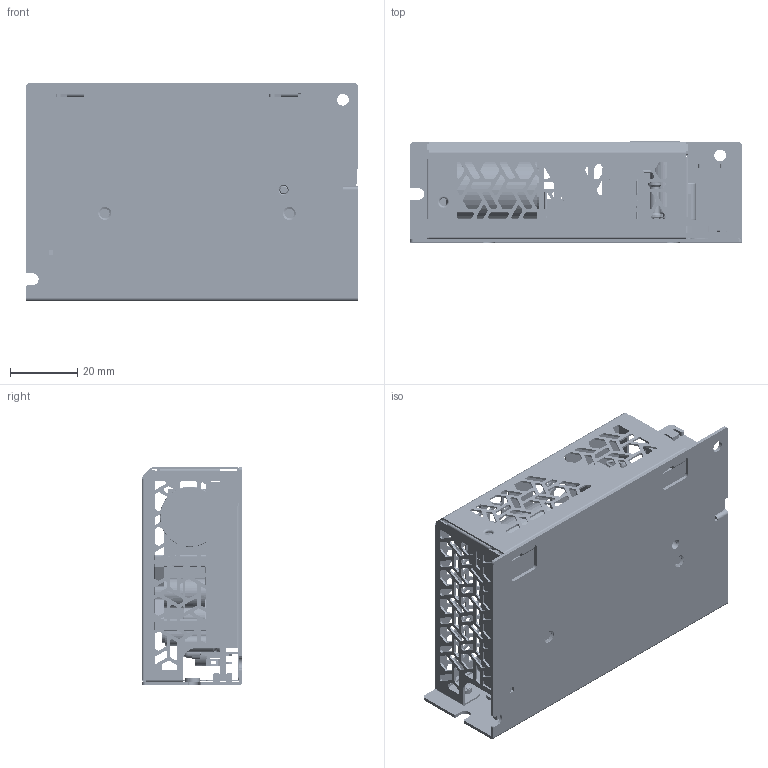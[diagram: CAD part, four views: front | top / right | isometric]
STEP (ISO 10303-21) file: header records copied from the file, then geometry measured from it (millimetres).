
FILE_DESCRIPTION((''),'2;1');
FILE_NAME('LM35_50-23BXXR2-C','2022-06-16T',('pe210'),(''),'PRO/ENGINEER BY PARAMETRIC TECHNOLOGY CORPORATION, 2014000','PRO/ENGINEER BY PARAMETRIC TECHNOLOGY CORPORATION, 2014000','');
FILE_SCHEMA(('AUTOMOTIVE_DESIGN { 1 0 10303 214 1 1 1 1 }'));
Products named in the file (1): LM35_50-23BXXR2-C
Bounding box: 99 x 30.1 x 65 mm (x, y, z)
Volume: 14824.2 mm3; surface area: 87883.7 mm2
Topology: 15 solids, 29 shells, 5732 faces, 16664 edges, 10978 vertices
Faces by surface type: plane 3555, cylinder 1625, extrusion 312, cone 94, torus 74, bspline 70, sphere 2
Entity records: 252308 total; most frequent: CARTESIAN_POINT 52043, ORIENTED_EDGE 32919, DIRECTION 29908, EDGE_CURVE 16652, PRESENTATION_STYLE_ASSIGNMENT 13667, STYLED_ITEM 13626, CURVE_STYLE 12180, VECTOR 12082
